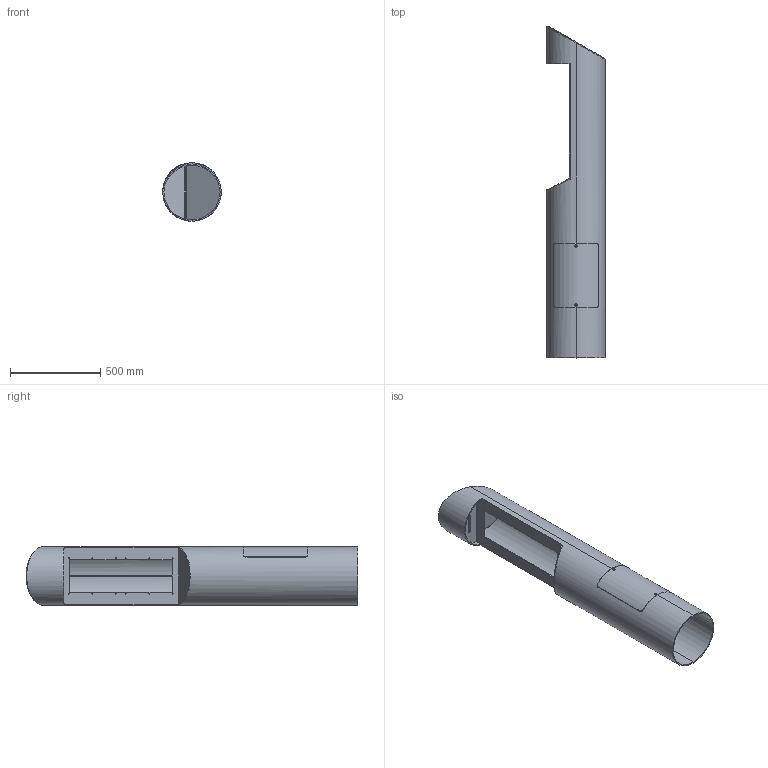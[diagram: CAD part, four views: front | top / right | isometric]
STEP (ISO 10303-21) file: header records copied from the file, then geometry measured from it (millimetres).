
FILE_DESCRIPTION (( 'STEP AP203' ), '1' );
FILE_NAME ('cad-133_CB9-s_Dual_dwg.STEP', '2019-05-03T02:04:52', ( '' ), ( '' ), 'SwSTEP 2.0', 'SolidWorks 2018', '' );
FILE_SCHEMA (( 'CONFIG_CONTROL_DESIGN' ));
Length unit declared in the file: inch
Products named in the file (1): cad-133_CB9-s_Dual_dwg
Bounding box: 323.85 x 1840.17 x 323.85 mm (x, y, z)
Volume: 10686858.5 mm3; surface area: 3596527.9 mm2
Topology: 5 solids, 5 shells, 132 faces, 360 edges, 230 vertices
Faces by surface type: cylinder 72, plane 45, bspline 11, cone 4
Entity records: 6089 total; most frequent: CARTESIAN_POINT 2679, ORIENTED_EDGE 720, DIRECTION 655, EDGE_CURVE 360, AXIS2_PLACEMENT_3D 236, VERTEX_POINT 230, VECTOR 183, LINE 183
